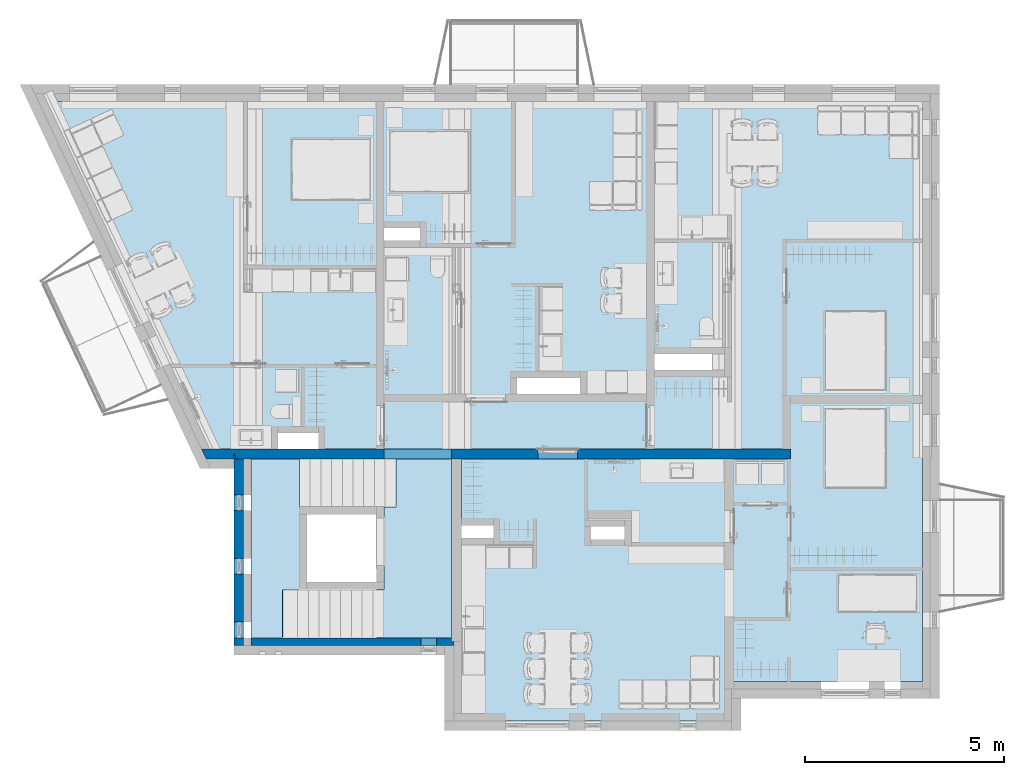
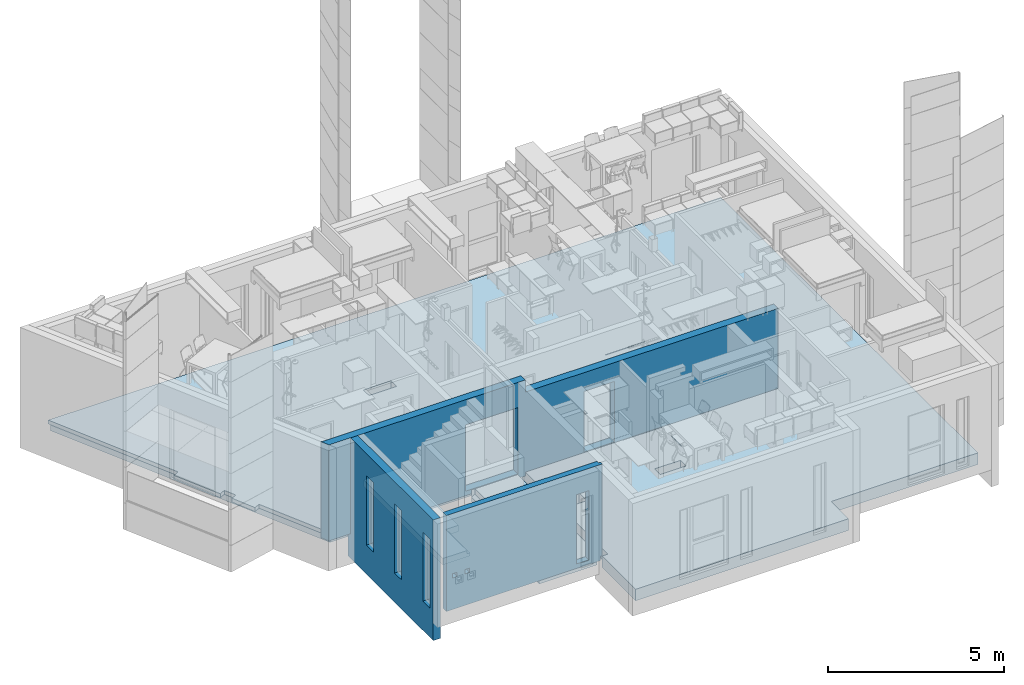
# One storey, part 40 of 125: 3 slabs, 3 walls, 7 openings, 1 element without a shape of its own.
"""IFC2X3 building model written with IfcOpenShell, lengths in millimetres."""

from ifc_helpers import new_model, entity, si_unit, converted_unit, direction, frame, frame_2d, origin, origin_2d_with_axis, place, context, subcontext, project, spatial, polyline, rectangle, outline, extrude, faceted_brep, material, material_list, layer, layer_set, type_object, element, aggregate, save


model = new_model("IFC2X3")

# Units and contexts
model_context = context("Model", 3, precision=0.01, world=origin(), true_north=direction((6.123233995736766e-17, 1.0)))
plan_context = context("Plan", 3, precision=0.01, world=origin(), true_north=direction((6.123233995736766e-17, 1.0)))
body_context = subcontext(model_context, "Body", "Model", "MODEL_VIEW")
ifc_project = project(units=[si_unit("LENGTHUNIT", "METRE", prefix="MILLI"), converted_unit("PLANEANGLEUNIT", "DEGREE", entity("IfcPlaneAngleMeasure", 0.017453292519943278), si_unit("PLANEANGLEUNIT", "RADIAN"), dimensions=[0, 0, 0, 0, 0, 0, 0]), si_unit("AREAUNIT", "SQUARE_METRE")], contexts=[model_context, plan_context])

# Site, building, storey
site_placement = place(None, origin())
site = spatial("IfcSite", under=ifc_project, at=site_placement, Name="Default", CompositionType="ELEMENT")
building_placement = place(site_placement, origin())
building = spatial("IfcBuilding", under=site, at=building_placement, CompositionType="ELEMENT")
storey_placement = place(building_placement, frame((0.0, 0.0, 3125.0)))
storey = spatial("IfcBuildingStorey", under=building, at=storey_placement, Name="2K", CompositionType="ELEMENT", Elevation=3125.0)

# Slab, openings
ifc_material_1 = material(Name="_K. Betoon. Armeeritud. Kohtvalu")
ifc_material_2 = material(Name="_K. Soojustus. Mineraalvill")
ifc_material_3 = material(Name="_K. Soojustus. EPS")
ifc_material_4 = material(Name="_K. Betoon. Armeeritud. Monteeritav")
ifc_material_list = material_list([ifc_material_1, ifc_material_2, ifc_material_3, ifc_material_4])
ifc_layer_1 = layer(ifc_material_1, 80.0)
ifc_layer_2 = layer(ifc_material_2, 30.0)
ifc_layer_3 = layer(ifc_material_3, 25.0)
ifc_layer_4 = layer(ifc_material_4, 265.0)
ifc_layer_set_1 = layer_set([ifc_layer_1, ifc_layer_2, ifc_layer_3, ifc_layer_4], Name="Floor:VL-01-A")
slab_type_1 = type_object("IfcSlabType", Name="Floor:VL-01-A", PredefinedType="FLOOR", material=ifc_layer_set_1)
slab_1_placement = place(storey_placement, origin())
slab_1 = element("IfcSlab", 1, at=slab_1_placement, inside=storey, type_object=slab_type_1, material=ifc_material_list, Name="Floor:VL-01-A", ObjectType="Floor:VL-01-A", PredefinedType="FLOOR", context=body_context, shape_type="Brep", body=[
    faceted_brep([(16900.0, 800.0, -420.0001983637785), (12090.0, 800.0, -420.0001983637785), (12090.0, -190.0, -420.0001983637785), (5109.99506085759, -190.0, -420.0001983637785), (5109.99506085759, 1710.0, -420.0001983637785), (5299.995060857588, 1710.0, -420.0001983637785), (5299.995060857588, 4300.0, -420.0001983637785), (6099.997197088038, 4300.0, -420.0001983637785), (6099.997197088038, 4730.0, -420.0001983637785), (5299.995060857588, 4730.0, -420.0001983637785), (5299.995060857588, 6599.041478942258, -420.0001983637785), (5375.000000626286, 6599.04147894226, -420.0001983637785), (5375.0000006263, 15209.041478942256, -420.0001983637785), (4975.000000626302, 15209.041478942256, -420.0001983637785), (4975.000000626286, 6649.9999594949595, -420.0001983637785), (1690.0, 6649.9999594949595, -420.0001983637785), (1690.0, 7050.0, -420.0001983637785), (680.0, 7050.0, -420.0001983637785), (680.0, 6649.9999594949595, -420.0001983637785), (124.9900006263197, 6649.99995949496, -420.0001983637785), (124.99000062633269, 15209.041478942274, -420.0001983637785), (-275.00999937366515, 15209.041478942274, -420.0001983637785), (-275.00999937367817, 6649.999959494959, -420.0001983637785), (-957.695397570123, 6649.99995949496, -420.0001983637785), (-5059.23867401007, 15400.0, -420.0001983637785), (-4773.579676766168, 15400.0, -420.0001983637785), (-4773.579676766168, 15230.000257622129, -420.0001983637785), (16900.0, 15230.000257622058, -420.0001983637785), (16900.0, 15190.017120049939, -420.0001983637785), (16824.999995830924, 15190.01712004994, -420.0001983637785), (16824.99999583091, 6425.001424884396, -420.0001983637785), (16900.0, 6425.001424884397, -420.0001983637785), (9400.0, 4380.0, -420.0001983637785), (9400.0, 4700.0, -420.0001983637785), (8560.0, 4700.0, -420.0001983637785), (8560.0, 4380.0, -420.0001983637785), (8280.0, 8040.0, -420.0001983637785), (8280.0, 8440.0, -420.0001983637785), (6690.0, 8440.0, -420.0001983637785), (6690.0, 8040.0, -420.0001983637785), (11600.0, 8640.0, -420.0001983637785), (11600.0, 9040.0, -420.0001983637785), (10150.0, 9040.0, -420.0001983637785), (10150.0, 8640.0, -420.0001983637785), (4250.0, 11900.0, -420.0001983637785), (4250.0, 12210.0, -420.0001983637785), (3350.0, 12210.0, -420.0001983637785), (3350.0, 11900.0, -420.0001983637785), (11775.000000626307, 6599.0414789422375, -420.0001983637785), (12175.000000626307, 6599.0414789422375, -420.0001983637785), (12175.00000062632, 15209.041478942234, -420.0001983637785), (11775.00000062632, 15209.041478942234, -420.0001983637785), (16900.0, 800.0, -20.00019836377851), (16900.0, 15400.0, -20.00019836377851), (10150.0, 15400.0, -20.00019836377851), (9950.0, 15400.0, -20.00019836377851), (3344.993534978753, 15400.0, -20.00019836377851), (3144.9935349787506, 15400.0, -20.00019836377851), (-5142.0699952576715, 15400.0, -20.00019836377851), (-3235.4709372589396, 11332.588673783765, -20.00019836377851), (-3416.5627244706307, 11247.70189858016, -20.00019836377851), (-2737.4685228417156, 9798.967600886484, -20.00019836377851), (-2556.3767356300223, 9883.85437609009, -20.00019836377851), (-2386.603185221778, 9521.670801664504, -20.00019836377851), (-2558.6421530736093, 9441.02753553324, -20.00019836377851), (-2228.147871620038, 8712.416877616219, -20.00019836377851), (-2047.0560844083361, 8797.303652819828, -20.00019836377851), (-1040.5074787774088, 6649.9999594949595, -20.00019836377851), (680.0, 6649.9999594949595, -20.00019836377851), (680.0, 7050.0, -20.00019836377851), (1690.0, 7050.0, -20.00019836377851), (1690.0, 6649.9999594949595, -20.00019836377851), (3144.9935349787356, 6649.9999594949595, -20.00019836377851), (3344.9935349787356, 6649.9999594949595, -20.00019836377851), (5299.995060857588, 6649.9999594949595, -20.00019836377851), (5299.995060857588, 6399.999959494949, -20.00019836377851), (5299.995060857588, 4730.0, -20.00019836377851), (6099.997197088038, 4730.0, -20.00019836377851), (6099.997197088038, 4300.0, -20.00019836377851), (5299.995060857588, 4300.0, -20.00019836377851), (5299.995060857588, 1710.0, -20.00019836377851), (5109.99506085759, 1710.0, -20.00019836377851), (5109.99506085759, -190.0, -20.00019836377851), (12090.0, -190.0, -20.00019836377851), (12090.0, 610.0, -20.00019836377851), (12090.0, 800.0, -20.00019836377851), (12149.993534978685, 800.0, -20.00019836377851), (8280.0, 8440.0, -20.00019836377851), (8280.0, 8040.0, -20.00019836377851), (6690.0, 8040.0, -20.00019836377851), (6690.0, 8440.0, -20.00019836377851), (11600.0, 9040.0, -20.00019836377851), (11600.0, 8640.0, -20.00019836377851), (10150.0, 8640.0, -20.00019836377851), (10150.0, 9040.0, -20.00019836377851), (4250.0, 12210.0, -20.00019836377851), (4250.0, 11900.0, -20.00019836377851), (3350.0, 11900.0, -20.00019836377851), (3350.0, 12210.0, -20.00019836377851), (8483.0, 5102.0, -20.00019836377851), (8483.0, 6399.999959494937, -20.00019836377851), (9783.0, 6399.999959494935, -20.00019836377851), (9783.0, 5101.999999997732, -20.00019836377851), (11862.0, 9210.0, -20.00019836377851), (10150.0, 9210.0, -20.00019836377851), (10150.0, 10290.0, -20.00019836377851), (11862.00000000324, 10290.0, -20.00019836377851), (5062.0, 8040.0, -20.00019836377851), (3344.9935349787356, 8040.0, -20.00019836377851), (3344.993534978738, 9240.0, -20.00019836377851), (5062.000000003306, 9240.0, -20.00019836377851), (9400.0, 4700.0, -20.00019836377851), (9400.0, 4380.0, -20.00019836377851), (8560.0, 4380.0, -20.00019836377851), (8560.0, 4700.0, -20.00019836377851), (16900.0, 6425.001424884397, -155.0), (16900.0, 15190.017120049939, -155.0), (16900.0, 15230.000257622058, -155.0), (16900.0, 15400.0, -155.0), (12090.0, 800.0, -155.0), (4975.000000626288, 6649.9999594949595, -155.0), (5299.995060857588, 6649.9999594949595, -155.0), (-2047.0560844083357, 8797.303652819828, -155.0), (-1040.5074787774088, 6649.9999594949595, -155.0), (-4773.579676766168, 15400.0, -155.0), (-5059.23867401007, 15400.0, -155.0), (-5142.0699952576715, 15400.0, -155.0), (3494.993534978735, 8040.0, -33.83353169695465), (3344.9935349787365, 8040.0, -33.83353169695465), (3344.993534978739, 9240.0, -33.83353169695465), (3494.9935349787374, 9240.0, -33.83353169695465), (8483.0, 6249.999959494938, -33.83353169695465), (8483.0, 6399.999959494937, -33.83353169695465), (9783.0, 6399.999959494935, -33.83353169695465), (9783.0, 6249.999959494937, -33.83353169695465), (10300.0, 9210.0, -33.83353169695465), (10150.0, 9210.0, -33.83353169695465), (10150.0, 10290.0, -33.83353169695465), (10300.0, 10290.0, -33.83353169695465), (-4773.579676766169, 15230.000257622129, -155.0), (-957.695397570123, 6649.999959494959, -155.0), (-2228.1478716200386, 8712.41687761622, -155.0), (-2558.6421530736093, 9441.02753553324, -155.0), (-2386.6031852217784, 9521.670801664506, -155.0), (-2556.3767356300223, 9883.85437609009, -155.0), (-2737.4685228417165, 9798.967600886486, -155.0), (-3416.5627244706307, 11247.70189858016, -155.0), (-3235.4709372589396, 11332.588673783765, -155.0), (124.99000062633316, 15209.041478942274, -155.0), (-275.00999937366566, 15209.041478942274, -155.0), (-275.00999937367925, 6649.9999594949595, -155.0), (124.99000062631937, 6649.9999594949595, -155.0), (5299.995060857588, 6599.041478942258, -155.0), (5375.000000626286, 6599.041478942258, -155.0), (5375.0000006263, 15209.041478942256, -155.0), (4975.000000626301, 15209.041478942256, -155.0), (11775.000000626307, 6599.041478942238, -155.0), (12175.000000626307, 6599.0414789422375, -155.0), (12175.00000062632, 15209.041478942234, -155.0), (11775.00000062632, 15209.041478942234, -155.0), (16824.99999583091, 6425.001424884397, -155.0), (16824.999995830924, 15190.017120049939, -155.0)], [[[0, 1, 2, 3, 4, 5, 6, 7, 8, 9, 10, 11, 12, 13, 14, 15, 16, 17, 18, 19, 20, 21, 22, 23, 24, 25, 26, 27, 28, 29, 30, 31], [32, 33, 34, 35], [36, 37, 38, 39], [40, 41, 42, 43], [44, 45, 46, 47], [48, 49, 50, 51]], [[52, 53, 54, 55, 56, 57, 58, 59, 60, 61, 62, 63, 64, 65, 66, 67, 68, 69, 70, 71, 72, 73, 74, 75, 76, 77, 78, 79, 80, 81, 82, 83, 84, 85, 86], [87, 88, 89, 90], [91, 92, 93, 94], [95, 96, 97, 98], [99, 100, 101, 102], [103, 104, 105, 106], [107, 108, 109, 110], [111, 112, 113, 114]], [[53, 52, 0, 31, 115, 116, 28, 27, 117, 118]], [[1, 0, 52, 86, 85, 119]], [[3, 2, 83, 82]], [[6, 5, 80, 79]], [[74, 73, 72, 71, 15, 14, 120, 121]], [[67, 66, 122, 123]], [[58, 57, 56, 55, 54, 53, 118, 124, 25, 24, 125, 126]], [[70, 16, 15, 71]], [[16, 70, 69, 17]], [[17, 69, 68, 18]], [[7, 78, 77, 8]], [[8, 77, 76, 9]], [[78, 7, 6, 79]], [[32, 112, 111, 33]], [[33, 111, 114, 34]], [[34, 114, 113, 35]], [[112, 32, 35, 113]], [[36, 88, 87, 37]], [[37, 87, 90, 38]], [[38, 90, 89, 39]], [[88, 36, 39, 89]], [[40, 92, 91, 41]], [[41, 91, 94, 42]], [[42, 94, 93, 43]], [[92, 40, 43, 93]], [[44, 96, 95, 45]], [[45, 95, 98, 46]], [[46, 98, 97, 47]], [[96, 44, 47, 97]], [[107, 127, 128, 108]], [[109, 129, 130, 110]], [[108, 128, 129, 109]], [[127, 107, 110, 130]], [[128, 127, 130, 129]], [[99, 131, 132, 100]], [[101, 133, 134, 102]], [[100, 132, 133, 101]], [[131, 99, 102, 134]], [[132, 131, 134, 133]], [[103, 135, 136, 104]], [[105, 137, 138, 106]], [[104, 136, 137, 105]], [[135, 103, 106, 138]], [[136, 135, 138, 137]], [[2, 1, 119, 85, 84, 83]], [[4, 3, 82, 81]], [[5, 4, 81, 80]], [[124, 139, 26, 25]], [[139, 124, 118, 117]], [[26, 139, 117, 27]], [[140, 125, 24, 23]], [[125, 140, 123, 122, 141, 142, 143, 144, 145, 146, 147, 126]], [[66, 65, 141, 122]], [[65, 64, 142, 141]], [[64, 63, 143, 142]], [[63, 62, 144, 143]], [[62, 61, 145, 144]], [[61, 60, 146, 145]], [[60, 59, 147, 146]], [[59, 58, 126, 147]], [[148, 149, 21, 20]], [[21, 149, 150, 22]], [[148, 20, 19, 151]], [[149, 148, 151, 150]], [[152, 153, 11, 10]], [[154, 155, 13, 12]], [[13, 155, 120, 14]], [[153, 154, 12, 11]], [[155, 154, 153, 152, 121, 120]], [[156, 157, 49, 48]], [[158, 159, 51, 50]], [[159, 156, 48, 51]], [[157, 158, 50, 49]], [[157, 156, 159, 158]], [[30, 160, 115, 31]], [[116, 161, 29, 28]], [[161, 160, 30, 29]], [[160, 161, 116, 115]], [[68, 67, 123, 140, 23, 22, 150, 151, 19, 18]], [[76, 75, 74, 121, 152, 10, 9]]]),
])
opening_1_placement = place(slab_1_placement, origin())
element("IfcOpeningElement", 2, at=opening_1_placement, cuts=slab_1, Name="Floor:VL-01-A", ObjectType="Opening", context=body_context, shape_type="SweptSolid", body=[
    extrude(rectangle(XDim=319.99999999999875, YDim=839.9999999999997, at=origin_2d_with_axis()), frame((8980.0, 4540.0, -420.0001983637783), z_axis=(0.0, 0.0, 1.0), x_axis=(0.0, 1.0, 0.0)), (0.0, 0.0, 1.0), 400.0),
])
opening_2_placement = place(slab_1_placement, origin())
element("IfcOpeningElement", 3, at=opening_2_placement, cuts=slab_1, Name="Floor:VL-01-A", ObjectType="Opening", context=body_context, shape_type="SweptSolid", body=[
    extrude(rectangle(XDim=400.0, YDim=1590.0000000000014, at=frame_2d((0.0, 5.115907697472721e-13), x_axis=(1.0, 0.0))), frame((7485.0, 8240.0, -420.0001983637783), z_axis=(0.0, 0.0, 1.0), x_axis=(0.0, 1.0, 0.0)), (0.0, 0.0, 1.0), 400.0),
])
opening_3_placement = place(slab_1_placement, origin())
element("IfcOpeningElement", 4, at=opening_3_placement, cuts=slab_1, Name="Floor:VL-01-A", ObjectType="Opening", context=body_context, shape_type="SweptSolid", body=[
    extrude(rectangle(XDim=400.0, YDim=1449.9999999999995, at=origin_2d_with_axis()), frame((10875.0, 8840.0, -420.0001983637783), z_axis=(0.0, 0.0, 1.0), x_axis=(0.0, 1.0, 0.0)), (0.0, 0.0, 1.0), 400.0),
])
opening_4_placement = place(slab_1_placement, origin())
element("IfcOpeningElement", 5, at=opening_4_placement, cuts=slab_1, Name="Floor:VL-01-A", ObjectType="Opening", context=body_context, shape_type="SweptSolid", body=[
    extrude(rectangle(XDim=310.000000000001, YDim=899.999999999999, at=frame_2d((1.0942358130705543e-12, 0.0), x_axis=(1.0, 0.0))), frame((3800.0, 12055.0, -420.0001983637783), z_axis=(0.0, 0.0, 1.0), x_axis=(0.0, 1.0, 0.0)), (0.0, 0.0, 1.0), 400.0),
])
opening_5_placement = place(slab_1_placement, frame((0.0, 0.0, -20.00019836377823)))
element("IfcOpeningElement", 6, at=opening_5_placement, cuts=slab_1, Name="Floor:VL-01-A", ObjectType="Opening", context=body_context, shape_type="SweptSolid", body=[
    extrude(outline(polyline([(-466.75161625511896, -6.916666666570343), (1250.2548487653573, -6.916666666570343), (-316.7516162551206, 6.916666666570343), (-466.75161625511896, 6.916666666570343), (-466.75161625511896, -6.916666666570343)])), frame((3811.7451512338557, 8040.0, -6.916666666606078), z_axis=(0.0, 1.0, 0.0), x_axis=(1.0, 0.0, 0.0)), (0.0, 0.0, 1.0), 1200.0),
])
opening_6_placement = place(slab_1_placement, frame((0.0, 0.0, -20.00019836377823)))
element("IfcOpeningElement", 7, at=opening_6_placement, cuts=slab_1, Name="Floor:VL-01-A", ObjectType="Opening", context=body_context, shape_type="SweptSolid", body=[
    extrude(outline(polyline([(-361.9999898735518, -6.916666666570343), (935.999969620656, -6.916666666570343), (-211.9999898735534, 6.916666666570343), (-361.9999898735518, 6.916666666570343), (-361.9999898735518, -6.916666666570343)])), frame((8483.0, 6037.9999696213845, -6.916666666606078), z_axis=(1.0, 0.0, 0.0), x_axis=(0.0, -1.0, 0.0)), (0.0, 0.0, 1.0), 1299.999999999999),
])
opening_7_placement = place(slab_1_placement, frame((0.0, 0.0, -20.00019836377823)))
element("IfcOpeningElement", 8, at=opening_7_placement, cuts=slab_1, Name="Floor:VL-01-A", ObjectType="Opening", context=body_context, shape_type="SweptSolid", body=[
    extrude(outline(polyline([(-465.4999999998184, -6.916666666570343), (1246.4999999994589, -6.916666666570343), (-315.49999999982, 6.916666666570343), (-465.4999999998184, 6.916666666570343), (-465.4999999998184, -6.916666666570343)])), frame((10615.499999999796, 9210.0, -6.916666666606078), z_axis=(0.0, 1.0, 0.0), x_axis=(1.0, 0.0, 0.0)), (0.0, 0.0, 1.0), 1079.9999999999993),
])

# Stair, slab
type_product = type_object("IfcTypeProduct", Name="Precast Stair:Default. Monteeritav raudbetoontrepp")
stair_placement = place(storey_placement, origin())
stair = element("IfcStair", 9, at=stair_placement, inside=storey, type_object=type_product, Name="Precast Stair:Stair", ObjectType="Precast Stair:Default. Monteeritav raudbetoontrepp", ShapeType="HALF_TURN_STAIR")
ifc_material_5 = material(Name="Temp. Betoon. Armeeritud. Kohtvalu")
slab_type_2 = type_object("IfcSlabType", Name="Monolithic Landing:Default Landing. Raudbetoon", PredefinedType="LANDING")
slab_2_placement = place(stair_placement, frame((0.0, 1905.0014695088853, 0.0)))
slab_2 = element("IfcSlab", 10, at=slab_2_placement, type_object=slab_type_2, material=ifc_material_5, Name="Precast Stair:Stair:508931 Landing 1", ObjectType="Monolithic Landing:Default Landing. Raudbetoon", PredefinedType="LANDING", context=body_context, shape_type="Brep", body=[
    faceted_brep([(902.4937255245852, 1204.9923864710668, 1565.0), (1213.7438214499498, 1204.9923864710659, 1565.0), (1213.7438214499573, 3292.4954377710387, 1565.0), (1213.7438214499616, 4492.495437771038, 1565.0), (0.0, 4492.495437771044, 1565.0), (0.0, 0.0, 1565.0), (792.4937255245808, 0.0, 1565.0), (792.4937255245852, 1201.5875000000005, 1565.0), (902.4937255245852, 1201.5875, 1565.0), (902.4937255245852, 1204.9923864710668, 1345.0), (902.4937255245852, 1201.5875, 1345.0), (1213.7438214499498, 1204.9923864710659, 1345.0), (1213.7438214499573, 3292.4954377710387, 1345.0), (1213.7438214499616, 4492.495437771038, 1345.0), (0.0, 4492.495437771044, 1345.0), (0.0, 0.0, 1345.0), (892.4937255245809, 0.0, 1345.0), (892.4937255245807, 0.0, 1455.0), (792.4937255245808, 0.0, 1455.0), (892.4937255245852, 1201.5875, 1345.0), (892.4937255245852, 1201.5875, 1455.0), (792.4937255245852, 1201.5875000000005, 1455.0)], [[[0, 1, 2, 3, 4, 5, 6, 7, 8]], [[9, 0, 8, 10]], [[1, 0, 9, 11]], [[2, 1, 11, 12]], [[4, 3, 13, 14]], [[5, 4, 14, 15]], [[5, 15, 16, 17, 18, 6]], [[11, 9, 10, 19, 16, 15, 14, 13, 12]], [[20, 21, 18, 17]], [[7, 21, 20, 19, 10, 8]], [[21, 7, 6, 18]], [[20, 17, 16, 19]], [[3, 2, 12, 13]]]),
])
aggregate(stair, [slab_2])

# Slab
slab_type_3 = type_object("IfcSlabType", Name="Floor:VL-03", PredefinedType="FLOOR")
slab_3_placement = place(storey_placement, origin())
element("IfcSlab", 11, at=slab_3_placement, inside=storey, type_object=slab_type_3, material=ifc_material_list, Name="Floor:VL-03", ObjectType="Floor:VL-03", PredefinedType="FLOOR", context=body_context, shape_type="Brep", body=[
    faceted_brep([(5049.995060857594, 6404.999959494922, -420.0), (5049.995060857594, 1900.0, -420.0), (3154.993534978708, 1900.0, -420.0), (3154.99353497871, 3109.993882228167, -420.0), (3349.9935349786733, 3109.9938822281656, -420.0), (3349.9935349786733, 5189.998421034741, -420.0), (3529.9935349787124, 5189.998421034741, -420.0), (3529.9935349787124, 6404.999959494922, -420.0), (5049.995060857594, 1900.0, -20.0), (5049.995060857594, 6404.999959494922, -20.0), (3529.9935349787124, 6404.999959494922, -20.0), (3529.9935349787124, 6397.496907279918, -20.0), (3643.7438214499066, 6397.496907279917, -20.0), (3643.743821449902, 5197.496907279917, -20.0), (3529.9935349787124, 5197.496907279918, -20.0), (3529.9935349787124, 5189.998421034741, -20.0), (3349.9935349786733, 5189.998421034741, -20.0), (3349.9935349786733, 3109.9938822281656, -20.0), (3154.99353497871, 3109.993882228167, -20.0), (3154.993534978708, 1900.0, -20.0), (3529.9935349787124, 5197.496907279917, -271.47507806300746), (3529.9935349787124, 6397.496907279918, -271.47507806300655), (3643.743821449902, 5197.496907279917, -198.33317575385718), (3643.7438214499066, 6397.496907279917, -198.333175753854)], [[[0, 1, 2, 3, 4, 5, 6, 7]], [[8, 9, 10, 11, 12, 13, 14, 15, 16, 17, 18, 19]], [[1, 0, 9, 8]], [[2, 1, 8, 19]], [[5, 4, 17, 16]], [[0, 7, 10, 9]], [[3, 2, 19, 18]], [[4, 3, 18, 17]], [[6, 5, 16, 15]], [[7, 6, 15, 14, 20, 21, 11, 10]], [[22, 23, 21, 20]], [[23, 12, 11, 21]], [[13, 22, 20, 14]], [[23, 22, 13, 12]]]),
])

# Walls
ifc_material_6 = material(Name="_K. Müüritis. Väikeplokk. Betoon-õõnesplokk")
ifc_layer_5 = layer(ifc_material_6, 190.00000000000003)
ifc_layer_set_2 = layer_set([ifc_layer_5], Name="Basic Wall:Columbia 190mm")
wall_type_1 = type_object("IfcWallType", Name="Basic Wall:Columbia 190mm", PredefinedType="STANDARD", material=ifc_layer_set_2)
wall_1_placement = place(storey_placement, frame((5109.995060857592, 1805.0, -154.99979801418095), z_axis=(0.0, 0.0, 1.0), x_axis=(-1.0, 0.0, 0.0)))
element("IfcWall", 12, at=wall_1_placement, inside=storey, type_object=wall_type_1, Name="Basic Wall:Columbia 190mm", ObjectType="Basic Wall:Columbia 190mm", context=body_context, shape_type="Brep", body=[
    faceted_brep([(4902.943800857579, -95.0, 1088.8537080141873), (4752.943800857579, -95.0, 1088.8537080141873), (4752.943800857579, -95.0, 1238.8537080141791), (4902.943800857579, -95.0, 1238.8537080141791), (4497.943800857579, -95.0, 1088.8537080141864), (4347.94380085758, -95.0, 1088.8537080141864), (4347.943800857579, -95.0, 1238.8537080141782), (4497.943800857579, -95.0, 1238.8537080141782), (839.9950608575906, -95.0, 2554.9997980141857), (839.9950608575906, -95.0, 154.99979801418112), (439.99506085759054, -95.0, 154.99979801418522), (439.99506085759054, -95.0, 2554.999798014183), (60.0, -95.0, 0.0), (5109.995060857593, -95.0, 0.0), (5109.995060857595, -95.0, 154.99979801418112), (5109.995060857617, -95.0, 2554.9997980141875), (5109.9950608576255, -95.0, 3324.99979801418), (839.9950608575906, -95.0, 3324.99979801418), (439.99506085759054, -95.0, 3324.99979801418), (60.0, -95.0, 3324.99979801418), (60.0, -95.0, 154.99979801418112), (4752.943800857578, 95.0, 1088.8537080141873), (4902.943800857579, 95.0, 1088.8537080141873), (4902.943800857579, 95.0, 1238.8537080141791), (4752.943800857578, 95.0, 1238.8537080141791), (4347.943800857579, 95.0, 1088.8537080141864), (4497.943800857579, 95.0, 1088.8537080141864), (4497.943800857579, 95.0, 1238.8537080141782), (4347.943800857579, 95.0, 1238.8537080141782), (839.9950608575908, 95.0, 154.99979801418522), (839.9950608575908, 95.0, 2554.999798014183), (439.9950608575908, 95.0, 2554.9997980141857), (439.9950608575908, 95.0, 154.99979801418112), (5109.995060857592, 95.0, 0.0), (60.0, 95.0, 0.0), (60.0, 95.0, 154.99979801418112), (0.0, 95.0, 154.99979801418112), (0.0, 95.0, 3324.99979801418), (239.99506085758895, 95.0, 3324.99979801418), (439.9950608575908, 95.0, 3324.99979801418), (839.9950608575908, 95.0, 3324.99979801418), (5109.995060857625, 95.0, 3324.99979801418), (5109.995060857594, 95.0, 154.99979801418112), (60.0, 0.0, 0.0), (0.0, 0.0, 3324.99979801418), (60.0, 0.0, 3324.99979801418), (0.0, 0.0, 154.99979801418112), (60.0, 0.0, 154.99979801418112)], [[[0, 1, 2, 3], [4, 5, 6, 7], [8, 9, 10, 11], [12, 13, 14, 15, 16, 17, 18, 19, 20]], [[21, 22, 23, 24], [25, 26, 27, 28], [29, 30, 31, 32], [33, 34, 35, 36, 37, 38, 39, 40, 41, 42]], [[13, 12, 43, 34, 33]], [[19, 18, 17, 16, 41, 40, 39, 38, 37, 44, 45]], [[45, 44, 46, 47]], [[44, 37, 36, 46]], [[22, 21, 1, 0]], [[23, 22, 0, 3]], [[24, 23, 3, 2]], [[21, 24, 2, 1]], [[26, 25, 5, 4]], [[27, 26, 4, 7]], [[28, 27, 7, 6]], [[25, 28, 6, 5]], [[29, 9, 8, 30]], [[30, 8, 11, 31]], [[31, 11, 10, 32]], [[9, 29, 32, 10]], [[13, 33, 42, 41, 16, 15, 14]], [[36, 35, 47, 46]], [[34, 43, 12, 20, 47, 35]], [[19, 45, 47, 20]]], outer=[[False, False, False, True], [False, False, False, True], [True], [True], [True], [True], [True], [True], [True], [True], [True], [True], [True], [True], [True], [True], [True], [True], [True], [True], [True], [True]]),
])
ifc_material_7 = material(Name="_K. Väisviimistlus. Krohv. Valge")
ifc_layer_6 = layer(ifc_material_7, 5.0)
ifc_layer_7 = layer(ifc_material_6, 240.0)
ifc_layer_8 = layer(ifc_material_7, 5.0)
ifc_layer_set_3 = layer_set([ifc_layer_6, ifc_layer_7, ifc_layer_8], Name="Basic Wall:SS-01.240")
wall_type_2 = type_object("IfcWallType", Name="Basic Wall:SS-01.240", PredefinedType="STANDARD", material=ifc_layer_set_3)
wall_2_placement = place(storey_placement, frame((13580.0, 6524.999959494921, -155.0), z_axis=(0.0, 0.0, 1.0), x_axis=(-1.0, 0.0, 0.0)))
element("IfcWall", 13, at=wall_2_placement, inside=storey, type_object=wall_type_2, Name="Basic Wall:SS-01.240", ObjectType="Basic Wall:SS-01.240", context=body_context, shape_type="Brep", body=[
    faceted_brep([(8280.004939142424, -125.0, 3325.0), (8280.004939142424, -125.0, 2905.0), (3630.0, -125.0, 2905.0), (3430.0, -125.0, 2905.0), (0.0, -125.0, 2905.0), (0.0, -125.0, 155.0), (0.0, -125.0, 134.99980163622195), (8280.004939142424, -125.0, 134.99980163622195), (8280.004939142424, -125.0, 0.0), (8604.999999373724, -125.0, 0.0), (10235.006465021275, -125.0, 0.0), (10435.006465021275, -125.0, 0.0), (11890.0, -125.0, 0.0), (12900.0, -125.0, 0.0), (13455.009999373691, -125.0, 0.0), (13855.00999937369, -125.0, 0.0), (14537.695397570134, -125.0, 0.0), (14620.507478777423, -125.0, 0.0), (14830.345818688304, -125.0, 0.0), (14830.345818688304, -125.0, 3325.0), (14620.507478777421, -125.0, 3325.0), (13070.0, -125.0, 3325.0), (12900.0, -125.0, 3325.0), (11890.0, -125.0, 3325.0), (11720.0, -125.0, 3325.0), (5360.0, -125.0, 155.0), (5360.0, -125.0, 2255.0), (6360.0, -125.0, 2255.0), (6360.0, -125.0, 155.0), (8530.0, -125.0, 2455.0), (10235.006465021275, -125.0, 2455.0), (10235.006465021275, -125.0, 155.0), (8530.0, -125.0, 155.0), (8280.004939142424, 125.0, 2905.0), (8280.004939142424, 125.0, 3325.0), (8530.00493914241, 125.0, 3325.0), (13580.0, 125.0, 3325.0), (13770.0, 125.0, 3325.0), (14010.0, 125.0, 3325.0), (14010.0, 125.0, 0.0), (13770.0, 125.0, 0.0), (8280.004939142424, 125.0, 0.0), (8280.004939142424, 125.0, 134.99980163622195), (5190.0, 125.0, 134.99980163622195), (5098.0, 125.0, 134.99980163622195), (5097.0, 125.0, 134.99980163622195), (3797.0, 125.0, 134.99980163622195), (1680.0064650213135, 125.0, 134.99980163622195), (1430.0064650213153, 125.0, 134.99980163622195), (92.0, 125.0, 134.99980163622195), (0.0, 125.0, 134.99980163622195), (0.0, 125.0, 2905.0), (92.0, 125.0, 2905.0), (1430.0064650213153, 125.0, 2905.0), (1680.0064650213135, 125.0, 2905.0), (5098.0, 125.0, 2905.0), (5190.0, 125.0, 2905.0), (5360.0, 125.0, 2255.0), (5360.0, 125.0, 155.0), (6360.0, 125.0, 155.0), (6360.0, 125.0, 2255.0), (10235.006465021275, 125.0, 2455.0), (8530.0, 125.0, 2455.0), (8530.0, 125.0, 155.0), (10235.006465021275, 125.0, 155.0), (14715.502068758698, 120.0, 0.0), (14737.987963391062, 72.03009142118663, 0.0), (8280.004939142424, -74.04151944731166, 0.0), (14010.0, 120.0, 0.0), (8280.004939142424, 120.0, 3325.0), (8280.004939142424, -120.0, 3325.0), (14715.502068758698, 120.0, 3325.0), (14010.0, 120.0, 3325.0)], [[[0, 1, 2, 3, 4, 5, 6, 7, 8, 9, 10, 11, 12, 13, 14, 15, 16, 17, 18, 19, 20, 21, 22, 23, 24], [25, 26, 27, 28], [29, 30, 31, 32]], [[33, 34, 35, 36, 37, 38, 39, 40, 41, 42, 43, 44, 45, 46, 47, 48, 49, 50, 51, 52, 53, 54, 55, 56], [57, 58, 59, 60], [61, 62, 63, 64]], [[65, 66, 18, 17, 16, 15, 14, 13, 12, 11, 10, 9, 8, 67, 41, 40, 39, 68]], [[34, 69, 70, 0, 24, 23, 22, 21, 20, 19, 71, 72, 38, 37, 36, 35]], [[0, 70, 69, 34, 33, 1]], [[4, 3, 2, 1, 33, 56, 55, 54, 53, 52, 51]], [[68, 72, 71, 65]], [[72, 68, 39, 38]], [[19, 18, 66, 65, 71]], [[25, 58, 57, 26]], [[58, 25, 28, 59]], [[59, 28, 27, 60]], [[26, 57, 60, 27]], [[29, 62, 61, 30]], [[31, 64, 63, 32]], [[62, 29, 32, 63]], [[30, 61, 64, 31]], [[4, 51, 50, 6, 5]], [[42, 7, 6, 50, 49, 48, 47, 46, 45, 44, 43]], [[7, 42, 41, 67, 8]]]),
])
ifc_layer_9 = layer(ifc_material_7, 10.0)
ifc_material_8 = material(Name="_K. Soojustus. EPS Silver")
ifc_layer_10 = layer(ifc_material_8, 230.0)
ifc_layer_set_4 = layer_set([ifc_layer_9, ifc_layer_10], Name="Basic Wall:VS-01")
wall_type_3 = type_object("IfcWallType", Name="Basic Wall:VS-01", PredefinedType="STANDARD", material=ifc_layer_set_4)
wall_3_placement = place(storey_placement, frame((-310.0, 1710.0, -1010.0), z_axis=(0.0, 0.0, 1.0), x_axis=(0.0, 1.0, 0.0)))
element("IfcWall", 14, at=wall_3_placement, inside=storey, type_object=wall_type_3, Name="Basic Wall:VS-01", ObjectType="Basic Wall:VS-01", context=body_context, shape_type="Brep", body=[
    faceted_brep([(0.0, -120.0, 4180.0), (0.0, -120.0, 1010.0), (0.0, -120.0, 0.0), (190.0, -120.0, 0.0), (4313.073616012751, -120.0, 0.0), (4313.073616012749, -120.0, 855.0), (4689.999959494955, -120.0, 855.0), (4689.999959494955, -120.0, 1010.0), (4689.999959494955, -120.0, 4180.0), (590.0, -120.0, 3410.0), (590.0, -120.0, 1010.0), (190.0, -120.0, 1010.0), (190.0, -120.0, 3410.0), (2190.0, -120.0, 3410.0), (2190.0, -120.0, 1010.0), (1790.0, -120.0, 1010.0), (1790.0, -120.0, 3410.0), (3790.0, -120.0, 3410.0), (3790.0, -120.0, 1010.0), (3390.0, -120.0, 1010.0), (3390.0, -120.0, 3410.0), (0.0, 120.0, 0.0), (0.0, 120.0, 589.9998016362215), (0.0, 120.0, 4180.0), (839.9999594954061, 120.0, 4180.0), (1239.9999594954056, 120.0, 4180.0), (2439.999959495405, 120.0, 4180.0), (2839.999959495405, 120.0, 4180.0), (4039.999959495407, 120.0, 4180.0), (4439.999959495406, 120.0, 4180.0), (4454.999959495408, 120.0, 4180.0), (4689.999959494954, 120.0, 4180.0), (4689.999959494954, 120.0, 855.0), (4825.070360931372, 120.0, 855.0), (4825.070360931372, 120.0, 0.0), (4694.999959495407, 120.0, 0.0), (4454.999959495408, 120.0, 0.0), (590.0, 120.0, 1010.0), (590.0, 120.0, 3410.0), (190.0, 120.0, 3410.0), (190.0, 120.0, 1010.0), (2190.0, 120.0, 1010.0), (2190.0, 120.0, 3410.0), (1790.0, 120.0, 3410.0), (1790.0, 120.0, 1010.0), (3790.0, 120.0, 1010.0), (3790.0, 120.0, 3410.0), (3390.0, 120.0, 3410.0), (3390.0, 120.0, 1010.0), (0.0, -110.0, 4180.0), (590.0, 40.0, 1010.0), (590.0, 30.0, 1010.0), (190.0, 30.0, 1010.0), (190.0, 40.0, 1010.0), (2190.0, 40.0, 1010.0), (2190.0, 30.0, 1010.0), (1790.0, 30.0, 1010.0), (1790.0, 40.0, 1010.0), (3790.0, 40.0, 1010.0), (3790.0, 30.0, 1010.0), (3390.0, 30.0, 1010.0), (3390.0, 40.0, 1010.0), (4689.999959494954, 56.68534679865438, 855.0)], [[[0, 1, 2, 3, 4, 5, 6, 7, 8], [9, 10, 11, 12], [13, 14, 15, 16], [17, 18, 19, 20]], [[21, 22, 23, 24, 25, 26, 27, 28, 29, 30, 31, 32, 33, 34, 35, 36], [37, 38, 39, 40], [41, 42, 43, 44], [45, 46, 47, 48]], [[4, 3, 2, 21, 36, 35, 34]], [[0, 8, 31, 30, 29, 28, 27, 26, 25, 24, 23, 49]], [[0, 49, 23, 22, 21, 2, 1]], [[38, 37, 50, 51, 10, 9]], [[39, 38, 9, 12]], [[40, 39, 12, 11, 52, 53]], [[37, 40, 53, 52, 11, 10, 51, 50]], [[42, 41, 54, 55, 14, 13]], [[43, 42, 13, 16]], [[44, 43, 16, 15, 56, 57]], [[41, 44, 57, 56, 15, 14, 55, 54]], [[46, 45, 58, 59, 18, 17]], [[47, 46, 17, 20]], [[48, 47, 20, 19, 60, 61]], [[45, 48, 61, 60, 19, 18, 59, 58]], [[5, 4, 34, 33, 62]], [[32, 62, 33]], [[62, 6, 5]], [[6, 62, 32, 31, 8, 7]]]),
])

save(model, "model.ifc")
